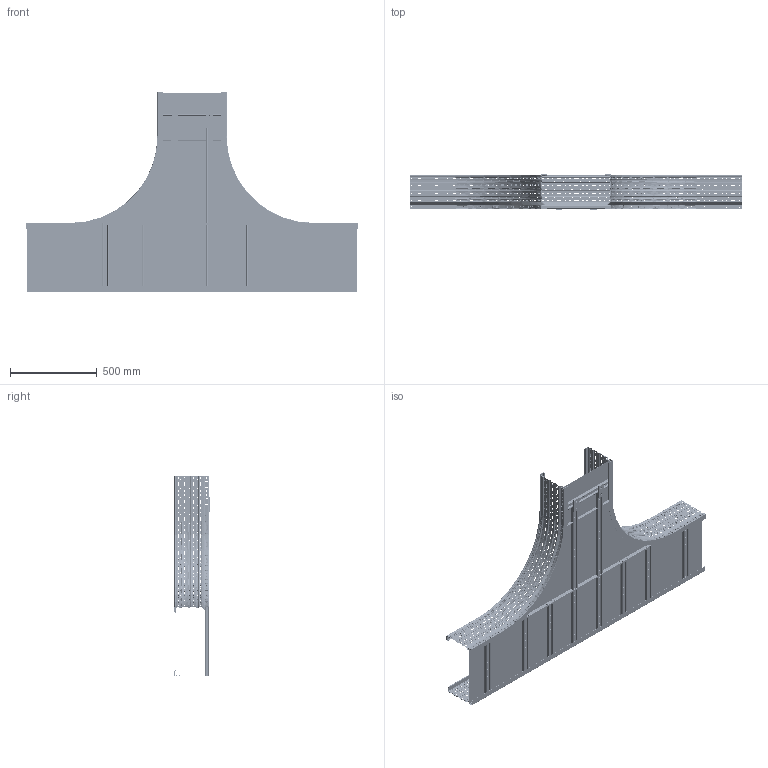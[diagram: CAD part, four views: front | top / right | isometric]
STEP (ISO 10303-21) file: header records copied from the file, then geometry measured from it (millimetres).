
FILE_DESCRIPTION (( 'STEP AP203' ), '1' );
FILE_NAME ('Ò- îòâåòâèòåëü H-200.STEP', '2015-01-23T05:58:19', ( '' ), ( '' ), 'SwSTEP 2.0', 'SolidWorks 2014', '' );
FILE_SCHEMA (( 'CONFIG_CONTROL_DESIGN' ));
Length unit declared in the file: millimetre
Products named in the file (11): òðàâåðñà äëèííàÿ  39x19x1.5 T-îòâåòâèòåëü_400(975,6); BMD-10 plate_34009HDZ; ﾎ魵瑙韃 蓁 ⅳ粢頸褄裨_base DPT DPX 1,0-400; Äíèùÿ T-îòâåòâèòåëÿ_cover DPT 1,2-400; Pan Head Cross Recess Screw_DIN_ISO 7045 - M6 x 10 - Z --- 10C; Hex Nut GradeC_DIN_Hexagon Nut ISO 4034 - M6 - C; 呧翲歑鍙 碴麔謥臇鴇 200; 栖闉罻2; Traversino 39x19x1.5_1_400:(1,2); Ò- îòâåòâèòåëü H-200; ëîíæåðîí ïðÿìîé H200 LAST_1900
Assembly tree (19 placements, depth 3):
  Ò- îòâåòâèòåëü H-200
    呧翲歑鍙 碴麔謥臇鴇 200  x2
    Traversino 39x19x1.5_1_400:(1,2)  x7
    ëîíæåðîí ïðÿìîé H200 LAST_1900
    òðàâåðñà äëèííàÿ  39x19x1.5 T-îòâåòâèòåëü_400(975,6)  x2
    BMD-10 plate_34009HDZ  x2
    ﾎ魵瑙韃 蓁 ⅳ粢頸褄裨_base DPT DPX 1,0-400
    Äíèùÿ T-îòâåòâèòåëÿ_cover DPT 1,2-400
    栖闉罻2
      Pan Head Cross Recess Screw_DIN_ISO 7045 - M6 x 10 - Z --- 10C
      Hex Nut GradeC_DIN_Hexagon Nut ISO 4034 - M6 - C
Bounding box: 1913.8 x 202.4 x 1158.1 mm (x, y, z)
Volume: 4202399.4 mm3; surface area: 6667825.9 mm2
Topology: 18 solids, 18 shells, 9365 faces, 26529 edges, 17287 vertices
Faces by surface type: plane 4635, cylinder 3992, bspline 618, torus 88, cone 30, sphere 2
Entity records: 200455 total; most frequent: CARTESIAN_POINT 57511, ORIENTED_EDGE 30438, DIRECTION 27753, EDGE_CURVE 15219, VERTEX_POINT 9966, VECTOR 9261, LINE 9261, AXIS2_PLACEMENT_3D 9246
